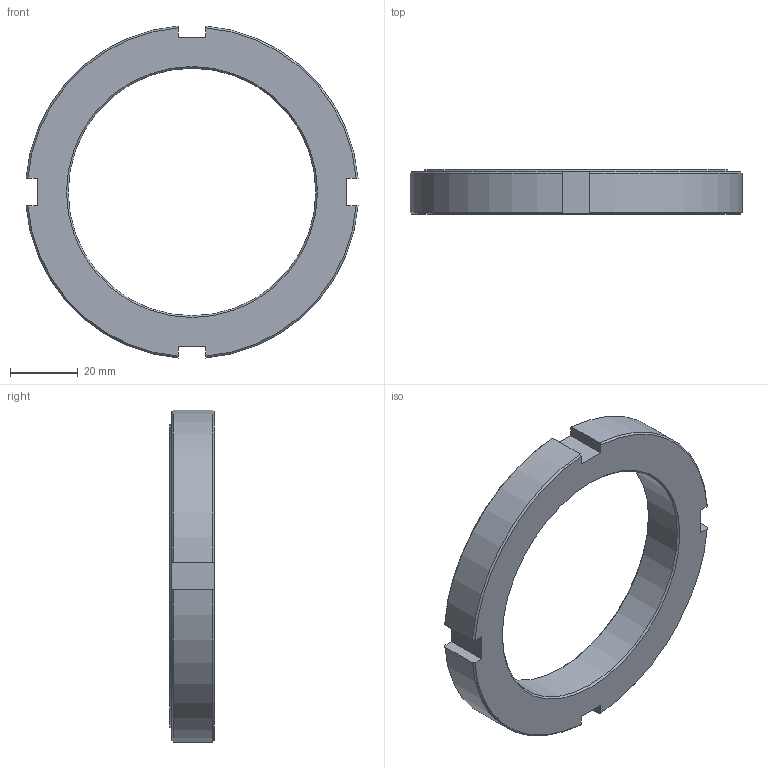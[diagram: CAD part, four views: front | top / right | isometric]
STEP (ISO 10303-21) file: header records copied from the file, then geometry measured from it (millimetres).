
FILE_DESCRIPTION(/* description */ (''),/* implementation_level */ '2;1');
FILE_NAME(/* name */ 'C:\Users\Jefferson\Desktop\Biblioteca Pro Nitro 2024\Flanges\PNB-24-XXX\PNB-24-M75.stp',/* time_stamp */ '2024-01-29T14:49:18-03:00',/* author */ ('Jefferson'),/* organization */ (''),/* preprocessor_version */ 'ST-DEVELOPER v18.1',/* originating_system */ 'Autodesk Inventor 2021',/* authorisation */ '');
FILE_SCHEMA (('AUTOMOTIVE_DESIGN { 1 0 10303 214 3 1 1 }'));
Length unit declared in the file: millimetre
Products named in the file (1): PNB-24-M75
Bounding box: 97.67 x 13 x 97.67 mm (x, y, z)
Volume: 41761 mm3; surface area: 13464 mm2
Topology: 1 solids, 1 shells, 174 faces, 470 edges, 313 vertices
Faces by surface type: plane 112, bspline 46, cone 11, cylinder 5
Full cylindrical faces by diameter (mm): 72.835 x1
Entity records: 5674 total; most frequent: CARTESIAN_POINT 1588, ORIENTED_EDGE 940, DIRECTION 643, EDGE_CURVE 470, LINE 339, VECTOR 339, VERTEX_POINT 313, EDGE_LOOP 191
